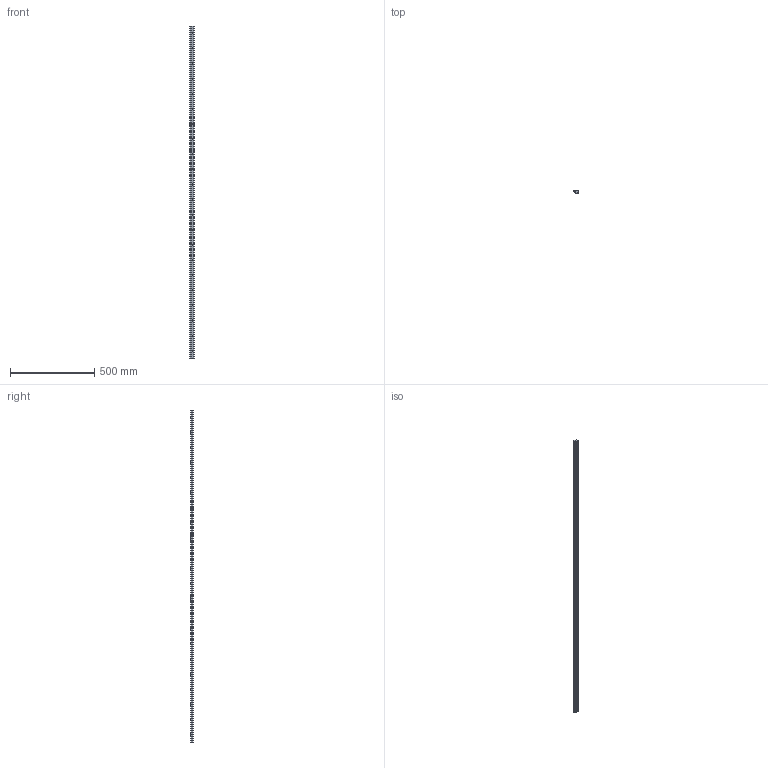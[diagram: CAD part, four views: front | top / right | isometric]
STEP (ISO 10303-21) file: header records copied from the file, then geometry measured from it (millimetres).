
FILE_DESCRIPTION(('STEP AP203'),'1');
FILE_NAME('slide_nmel1976p1.stp','2022-07-04T01:22:57',('TraceParts'),('TraceParts S.A.'),'Spatial InterOp 3D',' ',' ');
FILE_SCHEMA(('CONFIG_CONTROL_DESIGN'));
Length unit declared in the file: millimetre
Products named in the file (1): 1
Bounding box: 28.8 x 15.5 x 1976 mm (x, y, z)
Volume: 619677.3 mm3; surface area: 187830 mm2
Topology: 1 solids, 1 shells, 131 faces, 321 edges, 214 vertices
Faces by surface type: cylinder 96, plane 35
Entity records: 4099 total; most frequent: DIRECTION 777, CARTESIAN_POINT 667, ORIENTED_EDGE 642, AXIS2_PLACEMENT_3D 324, EDGE_CURVE 321, VERTEX_POINT 214, EDGE_LOOP 197, CIRCLE 192
